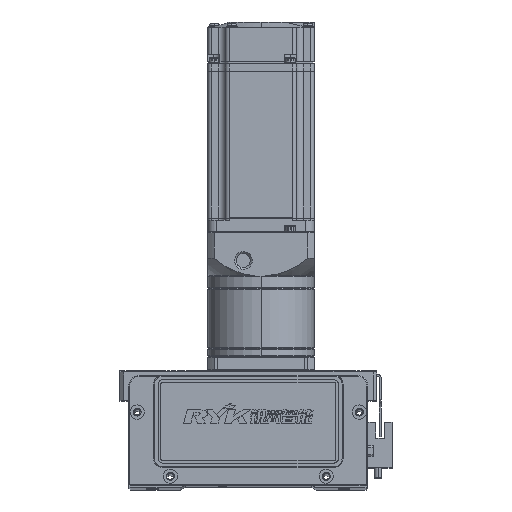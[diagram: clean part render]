
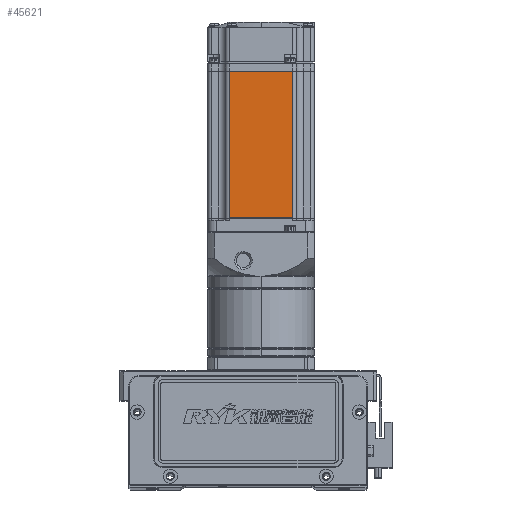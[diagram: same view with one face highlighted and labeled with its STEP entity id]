
A CAD part, top view. The second image highlights one B-rep face of the part: STEP entity #45621.
In plain terms, the highlighted planar face has unit normal (0, 0, 1).
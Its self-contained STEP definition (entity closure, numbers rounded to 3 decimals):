
#951 = EDGE_CURVE ( 'NONE', #7400, #14739, #59335, .T. ) ;
#1911 = CARTESIAN_POINT ( 'NONE',  ( -6.5, -25., 30. ) ) ;
#3130 = VECTOR ( 'NONE', #25618, 1000. ) ;
#4033 = VECTOR ( 'NONE', #4674, 1000. ) ;
#4605 = CARTESIAN_POINT ( 'NONE',  ( -7.75, 18., 30. ) ) ;
#4674 = DIRECTION ( 'NONE',  ( 0., -1., 0. ) ) ;
#4994 = EDGE_CURVE ( 'NONE', #41578, #17294, #16586, .T. ) ;
#7400 = VERTEX_POINT ( 'NONE', #4605 ) ;
#8325 = ORIENTED_EDGE ( 'NONE', *, *, #951, .T. ) ;
#12658 = DIRECTION ( 'NONE',  ( -1., 0., 0. ) ) ;
#14739 = VERTEX_POINT ( 'NONE', #43973 ) ;
#16586 = LINE ( 'NONE', #41535, #3130 ) ;
#17294 = VERTEX_POINT ( 'NONE', #57367 ) ;
#18239 = EDGE_CURVE ( 'NONE', #14739, #17294, #28687, .T. ) ;
#25515 = VECTOR ( 'NONE', #46910, 1000. ) ;
#25618 = DIRECTION ( 'NONE',  ( -1., 0., 0. ) ) ;
#26924 = DIRECTION ( 'NONE',  ( 0., 0., 1. ) ) ;
#27372 = DIRECTION ( 'NONE',  ( 1., 0., 0. ) ) ;
#28687 = LINE ( 'NONE', #31826, #25515 ) ;
#29913 = CARTESIAN_POINT ( 'NONE',  ( -7.75, 0., 30. ) ) ;
#31826 = CARTESIAN_POINT ( 'NONE',  ( -90.45, 0., 30. ) ) ;
#32146 = CARTESIAN_POINT ( 'NONE',  ( -6.5, 18., 30. ) ) ;
#32214 = FACE_OUTER_BOUND ( 'NONE', #56839, .T. ) ;
#32411 = EDGE_CURVE ( 'NONE', #7400, #41578, #51556, .T. ) ;
#37922 = VECTOR ( 'NONE', #12658, 1000. ) ;
#41071 = AXIS2_PLACEMENT_3D ( 'NONE', #1911, #26924, #27372 ) ;
#41535 = CARTESIAN_POINT ( 'NONE',  ( -6.5, -18., 30. ) ) ;
#41578 = VERTEX_POINT ( 'NONE', #55337 ) ;
#42202 = PLANE ( 'NONE',  #41071 ) ;
#43973 = CARTESIAN_POINT ( 'NONE',  ( -90.45, 18., 30. ) ) ;
#44510 = ORIENTED_EDGE ( 'NONE', *, *, #18239, .T. ) ;
#45621 = ADVANCED_FACE ( 'NONE', ( #32214 ), #42202, .T. ) ;
#46910 = DIRECTION ( 'NONE',  ( 0., -1., 0. ) ) ;
#48141 = ORIENTED_EDGE ( 'NONE', *, *, #4994, .F. ) ;
#49242 = ORIENTED_EDGE ( 'NONE', *, *, #32411, .F. ) ;
#51556 = LINE ( 'NONE', #29913, #4033 ) ;
#55337 = CARTESIAN_POINT ( 'NONE',  ( -7.75, -18., 30. ) ) ;
#56839 = EDGE_LOOP ( 'NONE', ( #49242, #8325, #44510, #48141 ) ) ;
#57367 = CARTESIAN_POINT ( 'NONE',  ( -90.45, -18., 30. ) ) ;
#59335 = LINE ( 'NONE', #32146, #37922 ) ;
